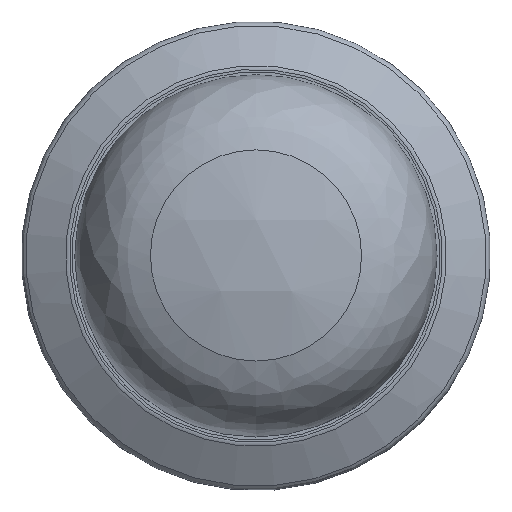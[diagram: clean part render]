
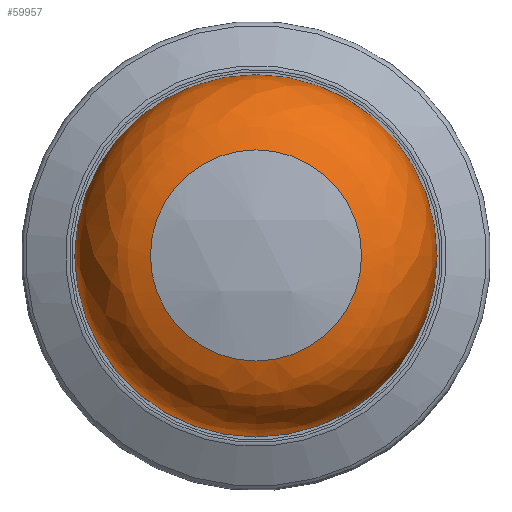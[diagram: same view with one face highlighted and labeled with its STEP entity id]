
A CAD part, top view. The second image highlights one B-rep face of the part: STEP entity #59957.
In plain terms, the highlighted free-form (B-spline) face has degree [2, 2] with [3, 9] control points.
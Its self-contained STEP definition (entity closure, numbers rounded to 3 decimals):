
#860=(
BOUNDED_SURFACE()
B_SPLINE_SURFACE(2,2,((#85413,#85414,#85415,#85416,#85417,#85418,#85419,
#85420,#85421),(#85422,#85423,#85424,#85425,#85426,#85427,#85428,#85429,
#85430),(#85431,#85432,#85433,#85434,#85435,#85436,#85437,#85438,#85439)),
 .UNSPECIFIED.,.F.,.T.,.F.)
B_SPLINE_SURFACE_WITH_KNOTS((3,3),(3,2,2,2,3),(1.,2.),(0.,1.571,
3.142,4.712,6.283),.UNSPECIFIED.)
GEOMETRIC_REPRESENTATION_ITEM()
RATIONAL_B_SPLINE_SURFACE(((1.,0.707,1.,0.707,1.,
0.707,1.,0.707,1.),(1.,0.707,1.,0.707,
1.,0.707,1.,0.707,1.),(1.,0.707,1.,
0.707,1.,0.707,1.,0.707,1.)))
REPRESENTATION_ITEM('')
SURFACE()
);
#907=B_SPLINE_CURVE_WITH_KNOTS('',2,(#85441,#85442,#85443),
 .UNSPECIFIED.,.F.,.F.,(3,3),(1.,2.),.UNSPECIFIED.);
#4659=FACE_OUTER_BOUND('',#7884,.T.);
#7884=EDGE_LOOP('',(#42483,#42484,#42485,#42486,#42487));
#25927=CIRCLE('',#63608,60.);
#25928=CIRCLE('',#63609,60.);
#25929=CIRCLE('',#63610,35.);
#26697=VERTEX_POINT('',#85408);
#26698=VERTEX_POINT('',#85409);
#26699=VERTEX_POINT('',#85440);
#32881=EDGE_CURVE('',#26697,#26698,#25927,.T.);
#32882=EDGE_CURVE('',#26698,#26697,#25928,.T.);
#32884=EDGE_CURVE('',#26699,#26697,#907,.T.);
#32885=EDGE_CURVE('',#26699,#26699,#25929,.T.);
#42483=ORIENTED_EDGE('',*,*,#32884,.T.);
#42484=ORIENTED_EDGE('',*,*,#32881,.T.);
#42485=ORIENTED_EDGE('',*,*,#32882,.T.);
#42486=ORIENTED_EDGE('',*,*,#32884,.F.);
#42487=ORIENTED_EDGE('',*,*,#32885,.F.);
#59957=ADVANCED_FACE('',(#4659),#860,.T.);
#63608=AXIS2_PLACEMENT_3D('',#85410,#68804,#68805);
#63609=AXIS2_PLACEMENT_3D('',#85411,#68806,#68807);
#63610=AXIS2_PLACEMENT_3D('',#85444,#68809,#68810);
#68804=DIRECTION('center_axis',(0.,1.,0.));
#68805=DIRECTION('ref_axis',(1.,0.,0.));
#68806=DIRECTION('center_axis',(0.,1.,0.));
#68807=DIRECTION('ref_axis',(1.,0.,0.));
#68809=DIRECTION('center_axis',(0.,1.,0.));
#68810=DIRECTION('ref_axis',(1.,0.,0.));
#85408=CARTESIAN_POINT('',(0.,66.,60.));
#85409=CARTESIAN_POINT('',(0.,66.,-60.));
#85410=CARTESIAN_POINT('Origin',(0.,66.,0.));
#85411=CARTESIAN_POINT('Origin',(0.,66.,0.));
#85413=CARTESIAN_POINT('Ctrl Pts',(0.,103.314,35.));
#85414=CARTESIAN_POINT('Ctrl Pts',(35.,103.314,35.));
#85415=CARTESIAN_POINT('Ctrl Pts',(35.,103.314,0.));
#85416=CARTESIAN_POINT('Ctrl Pts',(35.,103.314,-35.));
#85417=CARTESIAN_POINT('Ctrl Pts',(0.,103.314,-35.));
#85418=CARTESIAN_POINT('Ctrl Pts',(-35.,103.314,-35.));
#85419=CARTESIAN_POINT('Ctrl Pts',(-35.,103.314,0.));
#85420=CARTESIAN_POINT('Ctrl Pts',(-35.,103.314,35.));
#85421=CARTESIAN_POINT('Ctrl Pts',(0.,103.314,35.));
#85422=CARTESIAN_POINT('Ctrl Pts',(0.,96.325,60.));
#85423=CARTESIAN_POINT('Ctrl Pts',(60.,96.325,60.));
#85424=CARTESIAN_POINT('Ctrl Pts',(60.,96.325,0.));
#85425=CARTESIAN_POINT('Ctrl Pts',(60.,96.325,-60.));
#85426=CARTESIAN_POINT('Ctrl Pts',(0.,96.325,-60.));
#85427=CARTESIAN_POINT('Ctrl Pts',(-60.,96.325,-60.));
#85428=CARTESIAN_POINT('Ctrl Pts',(-60.,96.325,0.));
#85429=CARTESIAN_POINT('Ctrl Pts',(-60.,96.325,60.));
#85430=CARTESIAN_POINT('Ctrl Pts',(0.,96.325,60.));
#85431=CARTESIAN_POINT('Ctrl Pts',(0.,66.,60.));
#85432=CARTESIAN_POINT('Ctrl Pts',(60.,66.,60.));
#85433=CARTESIAN_POINT('Ctrl Pts',(60.,66.,0.));
#85434=CARTESIAN_POINT('Ctrl Pts',(60.,66.,-60.));
#85435=CARTESIAN_POINT('Ctrl Pts',(0.,66.,-60.));
#85436=CARTESIAN_POINT('Ctrl Pts',(-60.,66.,-60.));
#85437=CARTESIAN_POINT('Ctrl Pts',(-60.,66.,0.));
#85438=CARTESIAN_POINT('Ctrl Pts',(-60.,66.,60.));
#85439=CARTESIAN_POINT('Ctrl Pts',(0.,66.,60.));
#85440=CARTESIAN_POINT('',(0.,103.314,35.));
#85441=CARTESIAN_POINT('Ctrl Pts',(0.,103.314,35.));
#85442=CARTESIAN_POINT('Ctrl Pts',(0.,96.325,60.));
#85443=CARTESIAN_POINT('Ctrl Pts',(0.,66.,60.));
#85444=CARTESIAN_POINT('Origin',(0.,103.314,0.));
